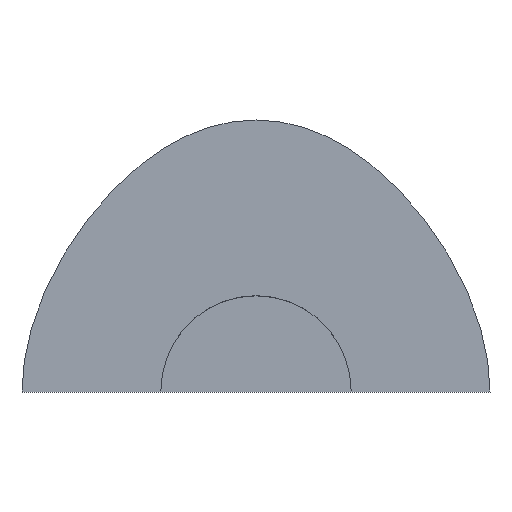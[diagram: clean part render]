
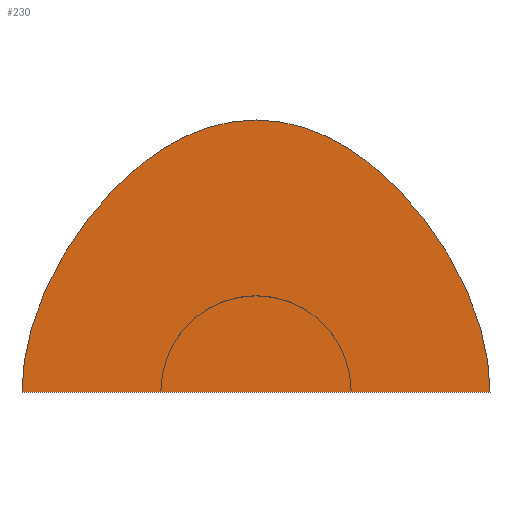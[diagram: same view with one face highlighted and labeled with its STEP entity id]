
A CAD part, top view. The second image highlights one B-rep face of the part: STEP entity #230.
In plain terms, the highlighted planar face has unit normal (0, 0, 1).
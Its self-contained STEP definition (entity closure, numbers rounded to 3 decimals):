
#193=CARTESIAN_POINT('Axis2P3D Location',(0.,58.119,0.)) ;
#198=CARTESIAN_POINT('Line Origine',(0.,0.,0.)) ;
#202=CARTESIAN_POINT('Vertex',(-123.,0.,0.)) ;
#204=CARTESIAN_POINT('Vertex',(123.,0.,0.)) ;
#208=CARTESIAN_POINT('Control Point',(0.,143.,0.)) ;
#209=CARTESIAN_POINT('Control Point',(37.724,143.,0.)) ;
#210=CARTESIAN_POINT('Control Point',(73.19,121.397,0.)) ;
#211=CARTESIAN_POINT('Control Point',(106.397,78.19,0.)) ;
#212=CARTESIAN_POINT('Control Point',(123.,37.724,0.)) ;
#213=CARTESIAN_POINT('Control Point',(123.,0.,0.)) ;
#214=CARTESIAN_POINT('Vertex',(0.,143.,0.)) ;
#218=CARTESIAN_POINT('Control Point',(0.,143.,0.)) ;
#219=CARTESIAN_POINT('Control Point',(-37.724,143.,0.)) ;
#220=CARTESIAN_POINT('Control Point',(-73.19,121.397,0.)) ;
#221=CARTESIAN_POINT('Control Point',(-106.397,78.19,0.)) ;
#222=CARTESIAN_POINT('Control Point',(-123.,37.724,0.)) ;
#223=CARTESIAN_POINT('Control Point',(-123.,0.,0.)) ;
#194=DIRECTION('Axis2P3D Direction',(0.,0.,1.)) ;
#195=DIRECTION('Axis2P3D XDirection',(1.,0.,0.)) ;
#199=DIRECTION('Vector Direction',(1.,0.,0.)) ;
#196=AXIS2_PLACEMENT_3D('Plane Axis2P3D',#193,#194,#195) ;
#226=ORIENTED_EDGE('',*,*,#206,.T.) ;
#227=ORIENTED_EDGE('',*,*,#216,.T.) ;
#228=ORIENTED_EDGE('',*,*,#224,.T.) ;
#200=VECTOR('Line Direction',#199,1.) ;
#230=ADVANCED_FACE('Fill.1',(#229),#197,.T.) ;
#207=B_SPLINE_CURVE_WITH_KNOTS('',5,(#208,#209,#210,#211,#212,#213),.UNSPECIFIED.,.F.,.U.,(6,6),(0.,188.621),.UNSPECIFIED.) ;
#217=B_SPLINE_CURVE_WITH_KNOTS('',5,(#218,#219,#220,#221,#222,#223),.UNSPECIFIED.,.F.,.U.,(6,6),(0.,188.621),.UNSPECIFIED.) ;
#206=EDGE_CURVE('',#203,#205,#201,.T.) ;
#216=EDGE_CURVE('',#205,#215,#207,.F.) ;
#224=EDGE_CURVE('',#215,#203,#217,.T.) ;
#225=EDGE_LOOP('',(#226,#227,#228)) ;
#229=FACE_OUTER_BOUND('',#225,.T.) ;
#201=LINE('Line',#198,#200) ;
#197=PLANE('',#196) ;
#203=VERTEX_POINT('',#202) ;
#205=VERTEX_POINT('',#204) ;
#215=VERTEX_POINT('',#214) ;
